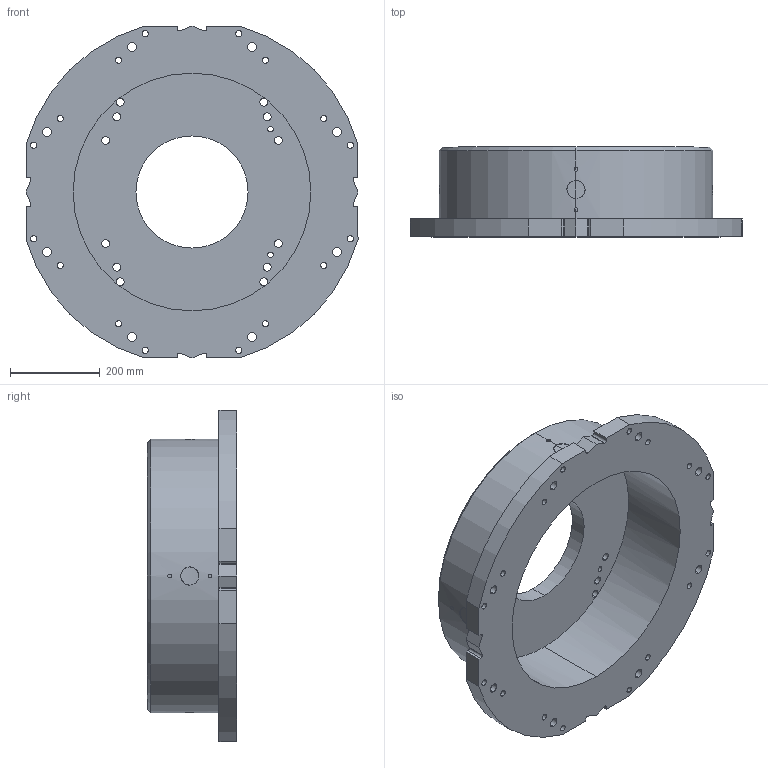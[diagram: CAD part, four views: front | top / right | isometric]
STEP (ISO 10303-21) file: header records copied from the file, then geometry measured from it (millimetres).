
FILE_DESCRIPTION (( 'STEP AP214' ), '1' );
FILE_NAME ('M-200.STEP', '2025-12-08T13:06:47', ( '' ), ( '' ), 'SwSTEP 2.0', 'SolidWorks 2022', '' );
FILE_SCHEMA (( 'AUTOMOTIVE_DESIGN' ));
Length unit declared in the file: millimetre
Products named in the file (1): M-200
Bounding box: 740 x 200 x 740 mm (x, y, z)
Volume: 26811286.8 mm3; surface area: 1573640.3 mm2
Topology: 1 solids, 1 shells, 179 faces, 501 edges, 330 vertices
Faces by surface type: cylinder 137, plane 28, bspline 8, cone 6
Entity records: 9142 total; most frequent: CARTESIAN_POINT 3493, ORIENTED_EDGE 994, DIRECTION 981, EDGE_CURVE 497, AXIS2_PLACEMENT_3D 386, VERTEX_POINT 330, EDGE_LOOP 267, CIRCLE 214
